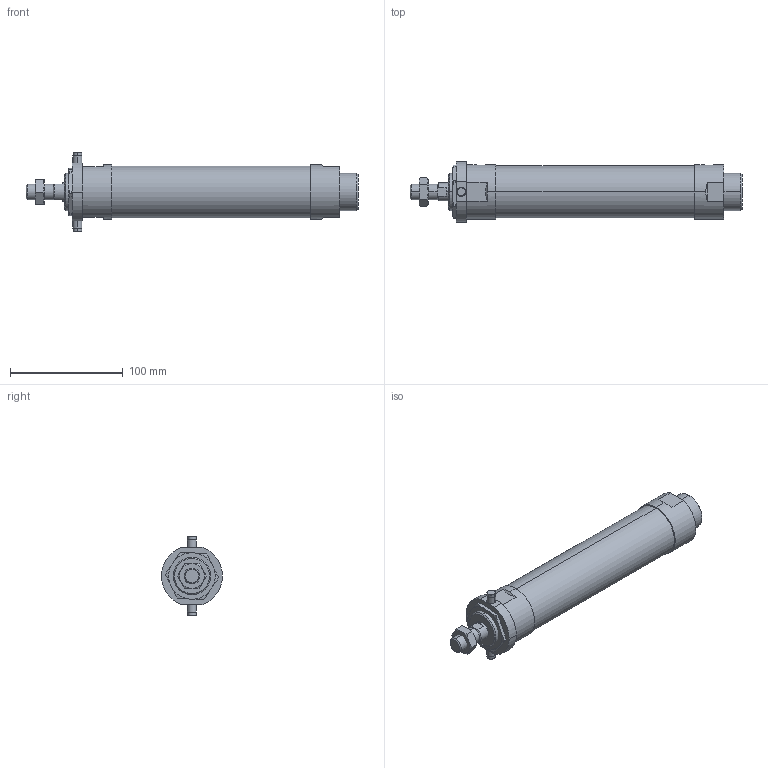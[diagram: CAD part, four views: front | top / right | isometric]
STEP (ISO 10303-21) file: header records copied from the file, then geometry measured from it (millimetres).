
FILE_DESCRIPTION (( 'STEP AP203' ), '1' );
FILE_NAME ('J#2-40-125-T.STEP', '2016-03-08T08:01:00', ( '' ), ( '' ), 'SwSTEP 2.0', 'SolidWorks 2014', '' );
FILE_SCHEMA (( 'CONFIG_CONTROL_DESIGN' ));
Length unit declared in the file: millimetre
Products named in the file (5): J#2-40-125-T; J#2-40-125; J#2-40-T
Assembly tree (4 placements, depth 2):
  J#2-40-125-T
    J#2-40-125
    (unnamed)
    (unnamed)
    J#2-40-T
Bounding box: 294 x 53.91 x 70 mm (x, y, z)
Volume: 433505.5 mm3; surface area: 52335.6 mm2
Topology: 4 solids, 4 shells, 121 faces, 279 edges, 171 vertices
Faces by surface type: plane 39, cylinder 35, torus 24, cone 23
Entity records: 4265 total; most frequent: CARTESIAN_POINT 1053, DIRECTION 576, ORIENTED_EDGE 550, EDGE_CURVE 275, AXIS2_PLACEMENT_3D 236, VERTEX_POINT 171, EDGE_LOOP 136, ADVANCED_FACE 121
